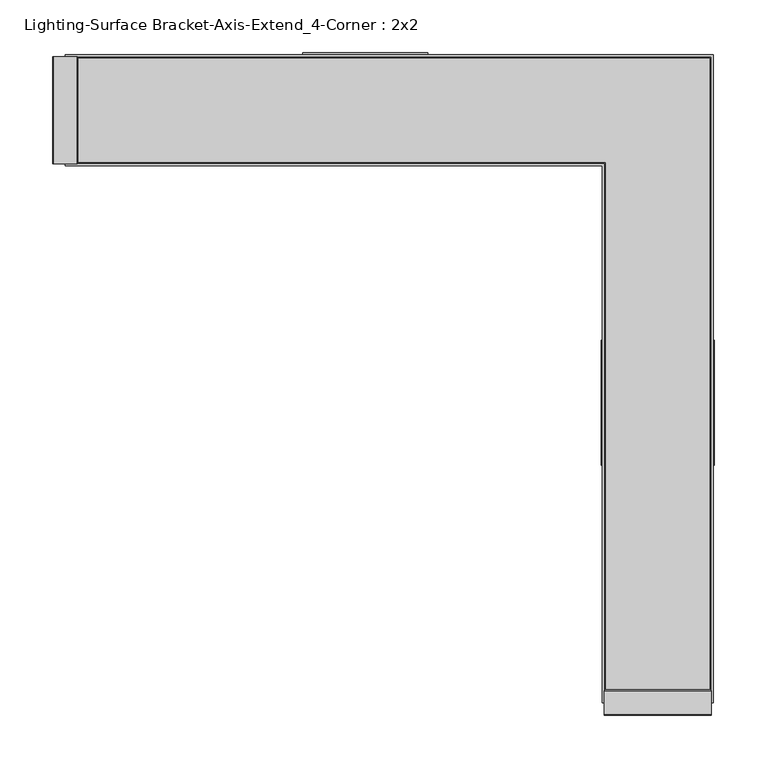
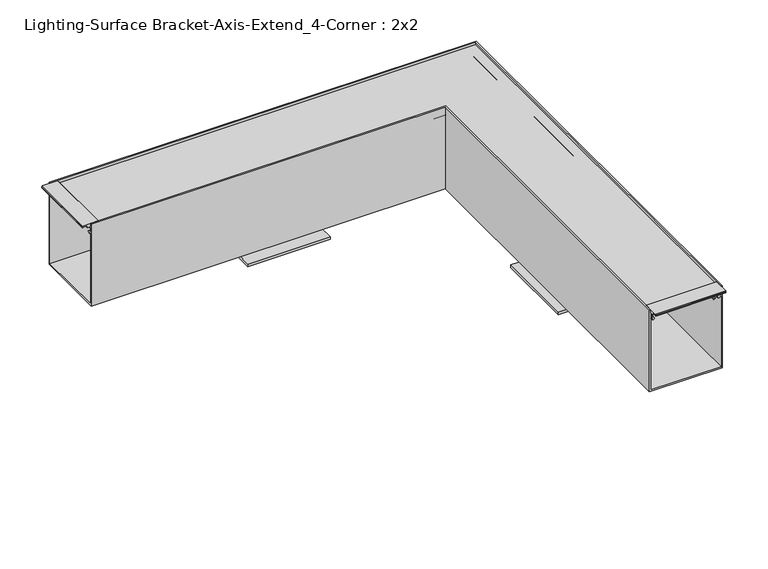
"""IFC4 building model written with IfcOpenShell, lengths in millimetres: light fixture geometry, Lighting-Surface Bracket-Axis-Extend_4-Corner : 2x2."""

from ifc_helpers import new_model, si_unit, frame, origin, place, context, project, spatial, polyline, circle_curve, ellipse_curve, outline, extrude, source, transform, mapped, element, save
from ifc_brep_helpers import plane_surface, cylinder_surface, revolved_surface, advanced_brep


def lighting_surface_bracket_axis_extend_4_corner_2x2_ce4d7e07(model_context):
    return source(origin(), model_context, "Body", "SolidModel", [
        extrude(outline(polyline([(19.05, -28.4099), (3.9878, -28.4099), (3.9878, -53.8099335), (0.0, -53.8099335), (0.0, 53.8099335), (3.9878, 53.8099335), (3.9878, 28.4099), (19.05, 28.4099), (19.05, -28.4099)])), frame((0.0, -337.757135, 0.0), z_axis=(0.0, 1.0, 0.0), x_axis=(0.0, 0.0, 1.0)), (0.0, 0.0, 1.0), 118.69928),
        extrude(outline(polyline([(-27.3849765, 19.05), (29.4348235, 19.05), (29.4348235, 3.9878), (54.834857, 3.9878), (54.834857, 0.0), (-52.78501, 0.0), (-52.78501, 3.9878), (-27.3849765, 3.9878), (-27.3849765, 19.05)])), frame((-337.757135, 0.0, 0.0), z_axis=(1.0, 0.0, 0.0), x_axis=(0.0, 1.0, 0.0)), (0.0, 0.0, 1.0), 118.69928),
        extrude(outline(polyline([(-551.65879, 142.7257861), (-551.65879, 141.25575), (-552.45254, 141.25575), (-552.45254, 142.0495), (-558.92319, 142.0495), (-558.92319, 139.2432981), (-568.60059, 139.2432981), (-568.60059, 142.0495), (-575.07124, 142.0495), (-575.07124, 141.25575), (-575.86499, 141.25575), (-575.86499, 142.7257861), (-574.9404463, 143.8275), (-552.5833337, 143.8275), (-551.65879, 142.7257861)])), frame((-50.75301, 0.0, 0.0), z_axis=(1.0, 0.0, 0.0), x_axis=(0.0, 1.0, 0.0)), (0.0, 0.0, 1.0), 101.50602),
        extrude(outline(polyline([(142.7257861, -551.65879), (143.8275, -552.5833337), (143.8275, -574.9404463), (142.7257861, -575.86499), (141.25575, -575.86499), (141.25575, -575.07124), (142.0495, -575.07124), (142.0495, -568.60059), (139.2432981, -568.60059), (139.2432981, -558.92319), (142.0495, -558.92319), (142.0495, -552.45254), (141.25575, -552.45254), (141.25575, -551.65879), (142.7257861, -551.65879)])), frame((0.0, -50.75301, 0.0), z_axis=(0.0, 1.0, 0.0), x_axis=(0.0, 0.0, 1.0)), (0.0, 0.0, 1.0), 101.50602),
        advanced_brep(
        [(-556.81499, -44.9537362, 138.9379991), (-556.81499, -45.2924281, 132.4753737), (-556.81499, -46.1628914, 125.8694903), (-556.81499, -45.3476056, 124.3717575), (-556.81499, -43.9929166, 123.1723555), (-556.81499, -44.973818, 121.8443369), (-556.81499, -46.5470052, 123.2371908), (-556.81499, -47.8918907, 127.06776), (-556.81499, -46.2564041, 131.1069658), (-556.81499, -46.9204959, 132.9561789), (-556.81499, -46.607002, 138.9379991), (-556.81499, -49.61001, 138.9379991), (-556.81499, -49.61001, 140.843), (-556.81499, 49.61001, 140.843), (-556.81499, 49.61001, 138.9379991), (-556.81499, 46.607002, 138.9379991), (-556.81499, 46.9204959, 132.9561789), (-556.81499, 46.2564041, 131.1069658), (-556.81499, 47.8918907, 127.06776), (-556.81499, 46.5470052, 123.2371908), (-556.81499, 44.973818, 121.8443369), (-556.81499, 43.9929166, 123.1723555), (-556.81499, 45.3476056, 124.3717575), (-556.81499, 46.1628914, 125.8694903), (-556.81499, 45.2924281, 132.4753737), (-556.81499, 44.9537362, 138.9379991), (-44.9537362, -556.81499, 138.9379991), (44.9537362, -556.81499, 138.9379991), (45.2924281, -556.81499, 132.4753737), (46.1628914, -556.81499, 125.8694903), (45.3476056, -556.81499, 124.3717575), (43.9929166, -556.81499, 123.1723555), (44.973818, -556.81499, 121.8443369), (46.5470052, -556.81499, 123.2371908), (47.8918907, -556.81499, 127.06776), (46.2564041, -556.81499, 131.1069658), (46.9204959, -556.81499, 132.9561789), (46.607002, -556.81499, 138.9379991), (49.61001, -556.81499, 138.9379991), (49.61001, -556.81499, 140.843), (-49.61001, -556.81499, 140.843), (-49.61001, -556.81499, 138.9379991), (-46.607002, -556.81499, 138.9379991), (-46.9204959, -556.81499, 132.9561789), (-46.2564041, -556.81499, 131.1069658), (-47.8918907, -556.81499, 127.06776), (-46.5470052, -556.81499, 123.2371908), (-44.973818, -556.81499, 121.8443369), (-43.9929166, -556.81499, 123.1723555), (-45.3476056, -556.81499, 124.3717575), (-46.1628914, -556.81499, 125.8694903), (-45.2924281, -556.81499, 132.4753737), (-44.9537362, -44.9537362, 138.9379991), (-45.2924281, -45.2924281, 132.4753737), (-46.1628914, -46.1628914, 125.8694903), (-45.3476056, -45.3476056, 124.3717575), (-43.9929166, -43.9929166, 123.1723555), (-44.973818, -44.973818, 121.8443369), (-46.5470052, -46.5470052, 123.2371908), (-47.8918907, -47.8918907, 127.06776), (-46.2564041, -46.2564041, 131.1069658), (-46.9204959, -46.9204959, 132.9561789), (-46.607002, -46.607002, 138.9379991), (-49.61001, -49.61001, 138.9379991), (-49.61001, -49.61001, 140.843), (49.61001, 49.61001, 140.843), (44.9537362, 44.9537362, 138.9379991), (49.61001, 49.61001, 138.9379991), (46.607002, 46.607002, 138.9379991), (46.9204959, 46.9204959, 132.9561789), (46.2564041, 46.2564041, 131.1069658), (47.8918907, 47.8918907, 127.06776), (46.5470052, 46.5470052, 123.2371908), (44.973818, 44.973818, 121.8443369), (43.9929166, 43.9929166, 123.1723555), (45.3476056, 45.3476056, 124.3717575), (46.1628914, 46.1628914, 125.8694903), (45.2924281, 45.2924281, 132.4753737)],
        [
            (0, 1),
            (1, 2, circle_curve(frame((-556.81499, -48.03521, 129.4765), z_axis=(-1.0, 0.0, 0.0), x_axis=(0.0, 0.6748971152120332, 0.7379118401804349)), 4.064)),
            (2, 3, circle_curve(frame((-556.81499, -42.930354, 126.6583457), z_axis=(1.0, 0.0, 0.0), x_axis=(0.0, -0.9714904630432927, -0.23707863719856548)), 3.3274001)),
            (3, 4, circle_curve(frame((-556.81499, -37.9113277, 131.4060708), z_axis=(1.0, 0.0, 0.0), x_axis=(0.0, -0.7264901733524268, -0.68717685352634)), 10.2362001)),
            (4, 5, circle_curve(frame((-556.81499, -44.4833673, 122.5083462), z_axis=(-1.0, 0.0, 0.0), x_axis=(0.0, 0.5941256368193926, 0.8043722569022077)), 0.8255)),
            (5, 6, circle_curve(frame((-556.81499, -37.9113269, 131.4060717), z_axis=(-1.0, 0.0, 0.0), x_axis=(0.0, -0.594125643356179, -0.8043722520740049)), 11.8872013)),
            (6, 7, circle_curve(frame((-556.81499, -42.930354, 126.6583457), z_axis=(-1.0, 0.0, 0.0), x_axis=(0.0, -0.7264685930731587, -0.6871996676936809)), 4.9784001)),
            (7, 8, circle_curve(frame((-556.81499, -48.03521, 129.4765), z_axis=(1.0, 0.0, 0.0), x_axis=(0.0, 0.05939464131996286, -0.9982345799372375)), 2.413)),
            (8, 9, circle_curve(frame((-556.81499, -44.3839769, 132.8232456), z_axis=(-1.0, 0.0, 0.0), x_axis=(0.0, -0.7371760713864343, -0.675700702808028)), 2.54)),
            (9, 10),
            (10, 11),
            (11, 12),
            (12, 13),
            (13, 14),
            (14, 15),
            (15, 16),
            (16, 17, circle_curve(frame((-556.81499, 44.3839769, 132.8232456), z_axis=(-1.0, 0.0, 0.0), x_axis=(0.0, 0.7371760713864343, -0.675700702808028)), 2.54)),
            (17, 18, circle_curve(frame((-556.81499, 48.03521, 129.4765), z_axis=(1.0, 0.0, 0.0), x_axis=(0.0, -0.05939464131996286, -0.9982345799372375)), 2.413)),
            (18, 19, circle_curve(frame((-556.81499, 42.930354, 126.6583457), z_axis=(-1.0, 0.0, 0.0), x_axis=(0.0, 0.7264685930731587, -0.6871996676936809)), 4.9784001)),
            (19, 20, circle_curve(frame((-556.81499, 37.9113269, 131.4060717), z_axis=(-1.0, 0.0, 0.0), x_axis=(0.0, 0.594125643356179, -0.8043722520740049)), 11.8872013)),
            (20, 21, circle_curve(frame((-556.81499, 44.4833673, 122.5083462), z_axis=(-1.0, 0.0, 0.0), x_axis=(0.0, -0.5941256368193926, 0.8043722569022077)), 0.8255)),
            (21, 22, circle_curve(frame((-556.81499, 37.9113277, 131.4060708), z_axis=(1.0, 0.0, 0.0), x_axis=(0.0, 0.7264901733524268, -0.68717685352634)), 10.2362001)),
            (22, 23, circle_curve(frame((-556.81499, 42.930354, 126.6583457), z_axis=(1.0, 0.0, 0.0), x_axis=(0.0, 0.9714904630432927, -0.23707863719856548)), 3.3274001)),
            (23, 24, circle_curve(frame((-556.81499, 48.03521, 129.4765), z_axis=(-1.0, 0.0, 0.0), x_axis=(0.0, -0.6748971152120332, 0.7379118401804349)), 4.064)),
            (24, 25),
            (25, 0),
            (26, 27),
            (27, 28),
            (28, 29, circle_curve(frame((48.03521, -556.81499, 129.4765), z_axis=(0.0, -1.0, 0.0), x_axis=(-0.6748971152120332, 0.0, 0.7379118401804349)), 4.064)),
            (29, 30, circle_curve(frame((42.930354, -556.81499, 126.6583457), z_axis=(0.0, 1.0, 0.0), x_axis=(0.9714904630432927, 0.0, -0.23707863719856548)), 3.3274001)),
            (30, 31, circle_curve(frame((37.9113277, -556.81499, 131.4060708), z_axis=(0.0, 1.0, 0.0), x_axis=(0.7264901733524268, 0.0, -0.68717685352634)), 10.2362001)),
            (31, 32, circle_curve(frame((44.4833673, -556.81499, 122.5083462), z_axis=(0.0, -1.0, 0.0), x_axis=(-0.5941256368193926, 0.0, 0.8043722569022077)), 0.8255)),
            (32, 33, circle_curve(frame((37.9113269, -556.81499, 131.4060717), z_axis=(0.0, -1.0, 0.0), x_axis=(0.594125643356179, 0.0, -0.8043722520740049)), 11.8872013)),
            (33, 34, circle_curve(frame((42.930354, -556.81499, 126.6583457), z_axis=(0.0, -1.0, 0.0), x_axis=(0.7264685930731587, 0.0, -0.6871996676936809)), 4.9784001)),
            (34, 35, circle_curve(frame((48.03521, -556.81499, 129.4765), z_axis=(0.0, 1.0, 0.0), x_axis=(-0.05939464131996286, 0.0, -0.9982345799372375)), 2.413)),
            (35, 36, circle_curve(frame((44.3839769, -556.81499, 132.8232456), z_axis=(0.0, -1.0, 0.0), x_axis=(0.7371760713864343, 0.0, -0.675700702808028)), 2.54)),
            (36, 37),
            (37, 38),
            (38, 39),
            (39, 40),
            (40, 41),
            (41, 42),
            (42, 43),
            (43, 44, circle_curve(frame((-44.3839769, -556.81499, 132.8232456), z_axis=(0.0, -1.0, 0.0), x_axis=(-0.7371760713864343, 0.0, -0.675700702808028)), 2.54)),
            (44, 45, circle_curve(frame((-48.03521, -556.81499, 129.4765), z_axis=(0.0, 1.0, 0.0), x_axis=(0.05939464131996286, 0.0, -0.9982345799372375)), 2.413)),
            (45, 46, circle_curve(frame((-42.930354, -556.81499, 126.6583457), z_axis=(0.0, -1.0, 0.0), x_axis=(-0.7264685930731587, 0.0, -0.6871996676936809)), 4.9784001)),
            (46, 47, circle_curve(frame((-37.9113269, -556.81499, 131.4060717), z_axis=(0.0, -1.0, 0.0), x_axis=(-0.594125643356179, 0.0, -0.8043722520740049)), 11.8872013)),
            (47, 48, circle_curve(frame((-44.4833673, -556.81499, 122.5083462), z_axis=(0.0, -1.0, 0.0), x_axis=(0.5941256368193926, 0.0, 0.8043722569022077)), 0.8255)),
            (48, 49, circle_curve(frame((-37.9113277, -556.81499, 131.4060708), z_axis=(0.0, 1.0, 0.0), x_axis=(-0.7264901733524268, 0.0, -0.68717685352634)), 10.2362001)),
            (49, 50, circle_curve(frame((-42.930354, -556.81499, 126.6583457), z_axis=(0.0, 1.0, 0.0), x_axis=(-0.9714904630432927, 0.0, -0.23707863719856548)), 3.3274001)),
            (50, 51, circle_curve(frame((-48.03521, -556.81499, 129.4765), z_axis=(0.0, -1.0, 0.0), x_axis=(0.6748971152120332, 0.0, 0.7379118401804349)), 4.064)),
            (51, 26),
            (0, 52),
            (52, 53),
            (53, 1),
            (53, 54, ellipse_curve(frame((-48.03521, -48.03521, 129.4765), z_axis=(-0.7071067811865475, 0.7071067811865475, 0.0), x_axis=(-0.7071067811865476, -0.7071067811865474, 0.0)), 5.7473639, 4.064)),
            (54, 2),
            (54, 55, ellipse_curve(frame((-42.930354, -42.930354, 126.6583457), z_axis=(0.7071067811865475, -0.7071067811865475, 0.0), x_axis=(0.7071067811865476, 0.7071067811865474, 0.0)), 4.7056543, 3.3274001)),
            (55, 3),
            (55, 56, ellipse_curve(frame((-37.9113277, -37.9113277, 131.4060708), z_axis=(0.7071067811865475, -0.7071067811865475, 0.0), x_axis=(0.7071067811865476, 0.7071067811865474, 0.0)), 14.476173, 10.2362001)),
            (56, 4),
            (56, 57, ellipse_curve(frame((-44.4833673, -44.4833673, 122.5083462), z_axis=(-0.7071067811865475, 0.7071067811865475, 0.0), x_axis=(-0.7071067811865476, -0.7071067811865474, 0.0)), 1.1674333, 0.8255)),
            (57, 5),
            (57, 58, ellipse_curve(frame((-37.9113269, -37.9113269, 131.4060717), z_axis=(-0.7071067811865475, 0.7071067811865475, 0.0), x_axis=(-0.7071067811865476, -0.7071067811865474, 0.0)), 16.8110412, 11.8872013)),
            (58, 6),
            (58, 59, ellipse_curve(frame((-42.930354, -42.930354, 126.6583457), z_axis=(-0.7071067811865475, 0.7071067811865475, 0.0), x_axis=(-0.7071067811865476, -0.7071067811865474, 0.0)), 7.0405209, 4.9784001)),
            (59, 7),
            (59, 60, ellipse_curve(frame((-48.03521, -48.03521, 129.4765), z_axis=(0.7071067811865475, -0.7071067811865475, 0.0), x_axis=(0.7071067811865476, 0.7071067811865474, 0.0)), 3.4124973, 2.413)),
            (60, 8),
            (60, 61, ellipse_curve(frame((-44.3839769, -44.3839769, 132.8232456), z_axis=(-0.7071067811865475, 0.7071067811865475, 0.0), x_axis=(-0.7071067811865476, -0.7071067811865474, 0.0)), 3.5921024, 2.54)),
            (61, 9),
            (61, 62),
            (62, 10),
            (62, 42),
            (41, 63),
            (63, 11),
            (63, 64),
            (64, 12),
            (64, 40),
            (39, 65),
            (65, 13),
            (25, 66),
            (66, 27),
            (26, 52),
            (65, 67),
            (67, 14),
            (67, 38),
            (37, 68),
            (68, 15),
            (68, 69),
            (69, 16),
            (69, 70, ellipse_curve(frame((44.3839769, 44.3839769, 132.8232456), z_axis=(-0.7071067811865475, 0.7071067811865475, 0.0), x_axis=(-0.7071067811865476, -0.7071067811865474, 0.0)), 3.5921024, 2.54)),
            (70, 17),
            (70, 71, ellipse_curve(frame((48.03521, 48.03521, 129.4765), z_axis=(0.7071067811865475, -0.7071067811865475, 0.0), x_axis=(0.7071067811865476, 0.7071067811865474, 0.0)), 3.4124973, 2.413)),
            (71, 18),
            (71, 72, ellipse_curve(frame((42.930354, 42.930354, 126.6583457), z_axis=(-0.7071067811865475, 0.7071067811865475, 0.0), x_axis=(-0.7071067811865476, -0.7071067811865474, 0.0)), 7.0405209, 4.9784001)),
            (72, 19),
            (72, 73, ellipse_curve(frame((37.9113269, 37.9113269, 131.4060717), z_axis=(-0.7071067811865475, 0.7071067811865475, 0.0), x_axis=(-0.7071067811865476, -0.7071067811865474, 0.0)), 16.8110412, 11.8872013)),
            (73, 20),
            (73, 74, ellipse_curve(frame((44.4833673, 44.4833673, 122.5083462), z_axis=(-0.7071067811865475, 0.7071067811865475, 0.0), x_axis=(-0.7071067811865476, -0.7071067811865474, 0.0)), 1.1674333, 0.8255)),
            (74, 21),
            (74, 75, ellipse_curve(frame((37.9113277, 37.9113277, 131.4060708), z_axis=(0.7071067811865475, -0.7071067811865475, 0.0), x_axis=(0.7071067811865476, 0.7071067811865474, 0.0)), 14.476173, 10.2362001)),
            (75, 22),
            (75, 76, ellipse_curve(frame((42.930354, 42.930354, 126.6583457), z_axis=(0.7071067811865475, -0.7071067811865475, 0.0), x_axis=(0.7071067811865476, 0.7071067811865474, 0.0)), 4.7056543, 3.3274001)),
            (76, 23),
            (76, 77, ellipse_curve(frame((48.03521, 48.03521, 129.4765), z_axis=(-0.7071067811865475, 0.7071067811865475, 0.0), x_axis=(-0.7071067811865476, -0.7071067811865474, 0.0)), 5.7473639, 4.064)),
            (77, 24),
            (77, 66),
            (51, 53),
            (50, 54),
            (49, 55),
            (48, 56),
            (47, 57),
            (46, 58),
            (45, 59),
            (44, 60),
            (43, 61),
            (36, 69),
            (35, 70),
            (34, 71),
            (33, 72),
            (32, 73),
            (31, 74),
            (30, 75),
            (29, 76),
            (28, 77),
        ],
        [
            plane_surface(frame((-556.81499, 0.0, 0.0), z_axis=(-1.0, 0.0, 0.0), x_axis=(0.0, 0.0, 1.0))),
            plane_surface(frame((0.0, -556.81499, 0.0), z_axis=(0.0, -1.0, 0.0), x_axis=(0.0, 0.0, 1.0))),
            plane_surface(frame((-556.81499, -44.9537362, 138.9379991), z_axis=(0.0, 0.9986295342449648, -0.05233596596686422), x_axis=(1.0, 0.0, 0.0))),
            cylinder_surface(frame((-556.81499, -48.03521, 129.4765), z_axis=(-1.0, 0.0, 0.0), x_axis=(0.0, 0.6748971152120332, 0.7379118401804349)), 4.064),
            revolved_surface(polyline([(-39.6029539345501, -46.1628914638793, 125.86949021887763), (-556.81499, -46.1628914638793, 125.86949021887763)]), (-556.81499, -42.930354, 126.6583457), (1.0000000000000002, 0.0, 0.0)),
            revolved_surface(polyline([(-27.67512760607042, -45.34782648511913, 124.371991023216), (-556.81499, -45.34782648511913, 124.371991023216)]), (-556.81499, -37.9113277, 131.4060708), (1.0, 0.0, 0.0)),
            cylinder_surface(frame((-556.81499, -44.4833673, 122.5083462), z_axis=(-1.0, 0.0, 0.0), x_axis=(0.0, 0.5941256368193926, 0.8043722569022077)), 0.8255),
            cylinder_surface(frame((-556.81499, -37.9113269, 131.4060717), z_axis=(-1.0, 0.0, 0.0), x_axis=(0.0, -0.594125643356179, -0.8043722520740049)), 11.8872013),
            cylinder_surface(frame((-556.81499, -42.930354, 126.6583457), z_axis=(-1.0, 0.0, 0.0), x_axis=(0.0, -0.7264685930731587, -0.6871996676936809)), 4.9784001),
            revolved_surface(polyline([(-45.62221001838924, -47.89189073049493, 127.06775995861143), (-556.81499, -47.89189073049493, 127.06775995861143)]), (-556.81499, -48.03521, 129.4765), (1.0, 0.0, 0.0)),
            cylinder_surface(frame((-556.81499, -44.3839769, 132.8232456), z_axis=(-1.0, 0.0, 0.0), x_axis=(0.0, -0.7371760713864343, -0.675700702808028)), 2.54),
            plane_surface(frame((-556.81499, -46.9204959, 132.9561789), z_axis=(0.0, -0.9986295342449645, 0.05233596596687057), x_axis=(1.0, 0.0, 0.0))),
            plane_surface(frame((-556.81499, -46.607002, 138.9379991), z_axis=(0.0, 0.0, -1.0), x_axis=(1.0, 0.0, 0.0))),
            plane_surface(frame((-556.81499, -49.61001, 138.9379991), z_axis=(0.0, -1.0, 0.0), x_axis=(1.0, 0.0, 0.0))),
            plane_surface(frame((-556.81499, -49.61001, 140.843), z_axis=(0.0, 0.0, 1.0), x_axis=(1.0, 0.0, 0.0))),
            plane_surface(frame((-556.81499, 44.9537362, 138.9379991), z_axis=(0.0, 0.0, -1.0), x_axis=(1.0, 0.0, 0.0))),
            plane_surface(frame((-556.81499, 49.61001, 140.843), z_axis=(0.0, 1.0, 0.0), x_axis=(1.0, 0.0, 0.0))),
            plane_surface(frame((-556.81499, 49.61001, 138.9379991), z_axis=(0.0, 0.0, -1.0), x_axis=(1.0, 0.0, 0.0))),
            plane_surface(frame((-556.81499, 46.607002, 138.9379991), z_axis=(0.0, 0.9986295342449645, 0.05233596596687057), x_axis=(1.0, 0.0, 0.0))),
            cylinder_surface(frame((-556.81499, 44.3839769, 132.8232456), z_axis=(-1.0, 0.0, 0.0), x_axis=(0.0, 0.7371760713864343, -0.675700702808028)), 2.54),
            revolved_surface(polyline([(50.44820998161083, 47.89189073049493, 127.06775995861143), (-556.81499, 47.89189073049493, 127.06775995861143)]), (-556.81499, 48.03521, 129.4765), (1.0, 0.0, 0.0)),
            cylinder_surface(frame((-556.81499, 42.930354, 126.6583457), z_axis=(-1.0, 0.0, 0.0), x_axis=(0.0, 0.7264685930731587, -0.6871996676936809)), 4.9784001),
            cylinder_surface(frame((-556.81499, 37.9113269, 131.4060717), z_axis=(-1.0, 0.0, 0.0), x_axis=(0.0, 0.594125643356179, -0.8043722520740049)), 11.8872013),
            cylinder_surface(frame((-556.81499, 44.4833673, 122.5083462), z_axis=(-1.0, 0.0, 0.0), x_axis=(0.0, -0.5941256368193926, 0.8043722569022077)), 0.8255),
            revolved_surface(polyline([(48.14752779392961, 45.34782648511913, 124.371991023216), (-556.81499, 45.34782648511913, 124.371991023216)]), (-556.81499, 37.9113277, 131.4060708), (1.0, 0.0, 0.0)),
            revolved_surface(polyline([(46.25775406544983, 46.1628914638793, 125.86949021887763), (-556.81499, 46.1628914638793, 125.86949021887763)]), (-556.81499, 42.930354, 126.6583457), (1.0000000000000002, 0.0, 0.0)),
            cylinder_surface(frame((-556.81499, 48.03521, 129.4765), z_axis=(-1.0, 0.0, 0.0), x_axis=(0.0, -0.6748971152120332, 0.7379118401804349)), 4.064),
            plane_surface(frame((-556.81499, 45.2924281, 132.4753737), z_axis=(0.0, -0.9986295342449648, -0.05233596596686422), x_axis=(1.0, 0.0, 0.0))),
            plane_surface(frame((-44.9537362, -44.9537362, 138.9379991), z_axis=(0.9986295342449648, 0.0, -0.05233596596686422), x_axis=(0.0, -1.0, 0.0))),
            cylinder_surface(frame((-48.03521, 0.0, 129.4765), z_axis=(0.0, 1.0, 0.0), x_axis=(0.6748971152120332, 0.0, 0.7379118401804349)), 4.064),
            revolved_surface(polyline([(-46.1628914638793, -556.8149900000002, 125.86949021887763), (-46.1628914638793, -39.60295393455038, 125.86949021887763)]), (-42.930354, 0.0, 126.6583457), (0.0, -1.0000000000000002, 0.0)),
            revolved_surface(polyline([(-45.34782648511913, -556.81499, 124.371991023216), (-45.34782648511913, -27.675127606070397, 124.371991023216)]), (-37.9113277, 0.0, 131.4060708), (0.0, -1.0, 0.0)),
            cylinder_surface(frame((-44.4833673, 0.0, 122.5083462), z_axis=(0.0, 1.0, 0.0), x_axis=(0.5941256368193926, 0.0, 0.8043722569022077)), 0.8255),
            cylinder_surface(frame((-37.9113269, 0.0, 131.4060717), z_axis=(0.0, 1.0, 0.0), x_axis=(-0.594125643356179, 0.0, -0.8043722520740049)), 11.8872013),
            cylinder_surface(frame((-42.930354, 0.0, 126.6583457), z_axis=(0.0, 1.0, 0.0), x_axis=(-0.7264685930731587, 0.0, -0.6871996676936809)), 4.9784001),
            revolved_surface(polyline([(-47.89189073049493, -556.81499, 127.06775995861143), (-47.89189073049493, -45.62221001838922, 127.06775995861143)]), (-48.03521, 0.0, 129.4765), (0.0, -1.0, 0.0)),
            cylinder_surface(frame((-44.3839769, 0.0, 132.8232456), z_axis=(0.0, 1.0, 0.0), x_axis=(-0.7371760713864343, 0.0, -0.675700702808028)), 2.54),
            plane_surface(frame((-46.9204959, -46.9204959, 132.9561789), z_axis=(-0.9986295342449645, 0.0, 0.05233596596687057), x_axis=(0.0, -1.0, 0.0))),
            plane_surface(frame((-49.61001, -49.61001, 138.9379991), z_axis=(-1.0, 0.0, 0.0), x_axis=(0.0, -1.0, 0.0))),
            plane_surface(frame((49.61001, 49.61001, 140.843), z_axis=(1.0, 0.0, 0.0), x_axis=(0.0, -1.0, 0.0))),
            plane_surface(frame((46.607002, 46.607002, 138.9379991), z_axis=(0.9986295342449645, 0.0, 0.05233596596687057), x_axis=(0.0, -1.0, 0.0))),
            cylinder_surface(frame((44.3839769, 0.0, 132.8232456), z_axis=(0.0, 1.0, 0.0), x_axis=(0.7371760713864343, 0.0, -0.675700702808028)), 2.54),
            revolved_surface(polyline([(47.89189073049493, -556.81499, 127.06775995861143), (47.89189073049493, 50.44820998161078, 127.06775995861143)]), (48.03521, 0.0, 129.4765), (0.0, -1.0, 0.0)),
            cylinder_surface(frame((42.930354, 0.0, 126.6583457), z_axis=(0.0, 1.0, 0.0), x_axis=(0.7264685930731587, 0.0, -0.6871996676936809)), 4.9784001),
            cylinder_surface(frame((37.9113269, 0.0, 131.4060717), z_axis=(0.0, 1.0, 0.0), x_axis=(0.594125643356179, 0.0, -0.8043722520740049)), 11.8872013),
            cylinder_surface(frame((44.4833673, 0.0, 122.5083462), z_axis=(0.0, 1.0, 0.0), x_axis=(-0.5941256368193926, 0.0, 0.8043722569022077)), 0.8255),
            revolved_surface(polyline([(45.34782648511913, -556.81499, 124.371991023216), (45.34782648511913, 48.147527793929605, 124.371991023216)]), (37.9113277, 0.0, 131.4060708), (0.0, -1.0, 0.0)),
            revolved_surface(polyline([(46.1628914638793, -556.8149900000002, 125.86949021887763), (46.1628914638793, 46.25775406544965, 125.86949021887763)]), (42.930354, 0.0, 126.6583457), (0.0, -1.0000000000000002, 0.0)),
            cylinder_surface(frame((48.03521, 0.0, 129.4765), z_axis=(0.0, 1.0, 0.0), x_axis=(-0.6748971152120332, 0.0, 0.7379118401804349)), 4.064),
            plane_surface(frame((45.2924281, 45.2924281, 132.4753737), z_axis=(-0.9986295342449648, 0.0, -0.05233596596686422), x_axis=(0.0, -1.0, 0.0))),
        ],
        [
            (0, [[1, 2, 3, 4, 5, 6, 7, 8, 9, 10, 11, 12, 13, 14, 15, 16, 17, 18, 19, 20, 21, 22, 23, 24, 25, 26]]),
            (1, [[27, 28, 29, 30, 31, 32, 33, 34, 35, 36, 37, 38, 39, 40, 41, 42, 43, 44, 45, 46, 47, 48, 49, 50, 51, 52]]),
            (2, [[-1, 53, 54, 55]]),
            (3, [[-2, -55, 56, 57]]),
            (4, [[-3, -57, 58, 59]]),
            (5, [[-4, -59, 60, 61]]),
            (6, [[-5, -61, 62, 63]]),
            (7, [[-6, -63, 64, 65]]),
            (8, [[-7, -65, 66, 67]]),
            (9, [[-8, -67, 68, 69]]),
            (10, [[-9, -69, 70, 71]]),
            (11, [[-10, -71, 72, 73]]),
            (12, [[-11, -73, 74, -42, 75, 76]]),
            (13, [[-12, -76, 77, 78]]),
            (14, [[-13, -78, 79, -40, 80, 81]]),
            (15, [[-26, 82, 83, -27, 84, -53]]),
            (16, [[-14, -81, 85, 86]]),
            (17, [[-15, -86, 87, -38, 88, 89]]),
            (18, [[-16, -89, 90, 91]]),
            (19, [[-17, -91, 92, 93]]),
            (20, [[-18, -93, 94, 95]]),
            (21, [[-19, -95, 96, 97]]),
            (22, [[-20, -97, 98, 99]]),
            (23, [[-21, -99, 100, 101]]),
            (24, [[-22, -101, 102, 103]]),
            (25, [[-23, -103, 104, 105]]),
            (26, [[-24, -105, 106, 107]]),
            (27, [[-25, -107, 108, -82]]),
            (28, [[-54, -84, -52, 109]]),
            (29, [[-56, -109, -51, 110]]),
            (30, [[-58, -110, -50, 111]]),
            (31, [[-60, -111, -49, 112]]),
            (32, [[-62, -112, -48, 113]]),
            (33, [[-64, -113, -47, 114]]),
            (34, [[-66, -114, -46, 115]]),
            (35, [[-68, -115, -45, 116]]),
            (36, [[-70, -116, -44, 117]]),
            (37, [[-72, -117, -43, -74]]),
            (38, [[-77, -75, -41, -79]]),
            (39, [[-85, -80, -39, -87]]),
            (40, [[-90, -88, -37, 118]]),
            (41, [[-92, -118, -36, 119]]),
            (42, [[-94, -119, -35, 120]]),
            (43, [[-96, -120, -34, 121]]),
            (44, [[-98, -121, -33, 122]]),
            (45, [[-100, -122, -32, 123]]),
            (46, [[-102, -123, -31, 124]]),
            (47, [[-104, -124, -30, 125]]),
            (48, [[-106, -125, -29, 126]]),
            (49, [[-108, -126, -28, -83]]),
        ],
    ),
        advanced_brep(
        [(-563.76189, -50.75301, 128.9177), (-563.76189, -50.75301, 21.082), (-563.76189, 50.75301, 21.082), (-563.76189, 50.75301, 128.9177), (-563.76189, 48.9135897, 128.9177), (-563.76189, 46.6540646, 127.6131626), (-563.76189, 45.4706616, 129.8683682), (-563.76189, 48.84801, 132.7023), (-563.76189, 48.84801, 130.9497), (-563.76189, 50.75301, 130.9497), (-563.76189, 50.75301, 137.4775), (-563.76189, 48.84801, 137.4775), (-563.76189, 48.84801, 135.9535), (-563.76189, 47.19701, 136.0400252), (-563.76189, 47.19701, 138.7475), (-563.76189, 50.75301, 138.7475), (-563.76189, 50.75301, 143.8275), (-563.76189, 52.78501, 143.8275), (-563.76189, 52.78501, 19.05), (-563.76189, -52.78501, 19.05), (-563.76189, -52.78501, 143.8275), (-563.76189, -50.75301, 143.8275), (-563.76189, -50.75301, 138.7475), (-563.76189, -47.19701, 138.7475), (-563.76189, -47.19701, 136.0400252), (-563.76189, -48.84801, 135.9535), (-563.76189, -48.84801, 137.4775), (-563.76189, -50.75301, 137.4775), (-563.76189, -50.75301, 130.9497), (-563.76189, -48.84801, 130.9497), (-563.76189, -48.84801, 132.7023), (-563.76189, -45.4706616, 129.8683682), (-563.76189, -46.6540646, 127.6131626), (-563.76189, -48.9135897, 128.9177), (-50.75301, -563.76189, 128.9177), (-48.9135897, -563.76189, 128.9177), (-46.6540646, -563.76189, 127.6131626), (-45.4706616, -563.76189, 129.8683682), (-48.84801, -563.76189, 132.7023), (-48.84801, -563.76189, 130.9497), (-50.75301, -563.76189, 130.9497), (-50.75301, -563.76189, 137.4775), (-48.84801, -563.76189, 137.4775), (-48.84801, -563.76189, 135.9535), (-47.19701, -563.76189, 136.0400252), (-47.19701, -563.76189, 138.7475), (-50.75301, -563.76189, 138.7475), (-50.75301, -563.76189, 143.8275), (-52.78501, -563.76189, 143.8275), (-52.78501, -563.76189, 19.05), (52.78501, -563.76189, 19.05), (52.78501, -563.76189, 143.8275), (50.75301, -563.76189, 143.8275), (50.75301, -563.76189, 138.7475), (47.19701, -563.76189, 138.7475), (47.19701, -563.76189, 136.0400252), (48.84801, -563.76189, 135.9535), (48.84801, -563.76189, 137.4775), (50.75301, -563.76189, 137.4775), (50.75301, -563.76189, 130.9497), (48.84801, -563.76189, 130.9497), (48.84801, -563.76189, 132.7023), (45.4706616, -563.76189, 129.8683682), (46.6540646, -563.76189, 127.6131626), (48.9135897, -563.76189, 128.9177), (50.75301, -563.76189, 128.9177), (50.75301, -563.76189, 21.082), (-50.75301, -563.76189, 21.082), (-50.75301, -50.75301, 128.9177), (-50.75301, -50.75301, 21.082), (50.75301, 50.75301, 21.082), (52.78501, 52.78501, 19.05), (-52.78501, -52.78501, 19.05), (-52.78501, -52.78501, 143.8275), (-50.75301, -50.75301, 143.8275), (-50.75301, -50.75301, 138.7475), (-47.19701, -47.19701, 138.7475), (-47.19701, -47.19701, 136.0400252), (-48.84801, -48.84801, 135.9535), (-48.84801, -48.84801, 137.4775), (-50.75301, -50.75301, 137.4775), (-50.75301, -50.75301, 130.9497), (-48.84801, -48.84801, 130.9497), (-48.84801, -48.84801, 132.7023), (-45.4706616, -45.4706616, 129.8683682), (-46.6540646, -46.6540646, 127.6131626), (-48.9135897, -48.9135897, 128.9177), (50.75301, 50.75301, 128.9177), (48.9135897, 48.9135897, 128.9177), (46.6540646, 46.6540646, 127.6131626), (45.4706616, 45.4706616, 129.8683682), (48.84801, 48.84801, 132.7023), (48.84801, 48.84801, 130.9497), (50.75301, 50.75301, 130.9497), (50.75301, 50.75301, 137.4775), (48.84801, 48.84801, 137.4775), (48.84801, 48.84801, 135.9535), (47.19701, 47.19701, 136.0400252), (47.19701, 47.19701, 138.7475), (50.75301, 50.75301, 138.7475), (50.75301, 50.75301, 143.8275), (52.78501, 52.78501, 143.8275)],
        [
            (0, 1),
            (1, 2),
            (2, 3),
            (3, 4),
            (4, 5, circle_curve(frame((-563.76189, 47.4072397, 128.9177), z_axis=(-1.0, 0.0, 0.0), x_axis=(0.0, 1.0, 0.0)), 1.5063501)),
            (5, 6, circle_curve(frame((-563.76189, 47.8452221, 129.6763079), z_axis=(-1.0, 0.0, 0.0), x_axis=(0.0, -0.5000000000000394, -0.866025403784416)), 2.382315)),
            (6, 7),
            (7, 8),
            (8, 9),
            (9, 10),
            (10, 11),
            (11, 12),
            (12, 13),
            (13, 14),
            (14, 15),
            (15, 16),
            (16, 17),
            (17, 18),
            (18, 19),
            (19, 20),
            (20, 21),
            (21, 22),
            (22, 23),
            (23, 24),
            (24, 25),
            (25, 26),
            (26, 27),
            (27, 28),
            (28, 29),
            (29, 30),
            (30, 31),
            (31, 32, circle_curve(frame((-563.76189, -47.8452221, 129.6763079), z_axis=(-1.0, 0.0, 0.0), x_axis=(0.0, 0.5000000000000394, -0.866025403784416)), 2.382315)),
            (32, 33, circle_curve(frame((-563.76189, -47.4072397, 128.9177), z_axis=(-1.0, 0.0, 0.0), x_axis=(0.0, -1.0, 0.0)), 1.5063501)),
            (33, 0),
            (34, 35),
            (35, 36, circle_curve(frame((-47.4072397, -563.76189, 128.9177), z_axis=(0.0, -1.0, 0.0), x_axis=(-1.0, 0.0, 0.0)), 1.5063501)),
            (36, 37, circle_curve(frame((-47.8452221, -563.76189, 129.6763079), z_axis=(0.0, -1.0, 0.0), x_axis=(0.5000000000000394, 0.0, -0.866025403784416)), 2.382315)),
            (37, 38),
            (38, 39),
            (39, 40),
            (40, 41),
            (41, 42),
            (42, 43),
            (43, 44),
            (44, 45),
            (45, 46),
            (46, 47),
            (47, 48),
            (48, 49),
            (49, 50),
            (50, 51),
            (51, 52),
            (52, 53),
            (53, 54),
            (54, 55),
            (55, 56),
            (56, 57),
            (57, 58),
            (58, 59),
            (59, 60),
            (60, 61),
            (61, 62),
            (62, 63, circle_curve(frame((47.8452221, -563.76189, 129.6763079), z_axis=(0.0, -1.0, 0.0), x_axis=(-0.5000000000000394, 0.0, -0.866025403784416)), 2.382315)),
            (63, 64, circle_curve(frame((47.4072397, -563.76189, 128.9177), z_axis=(0.0, -1.0, 0.0), x_axis=(1.0, 0.0, 0.0)), 1.5063501)),
            (64, 65),
            (65, 66),
            (66, 67),
            (67, 34),
            (0, 68),
            (68, 69),
            (69, 1),
            (69, 67),
            (66, 70),
            (70, 2),
            (18, 71),
            (71, 50),
            (49, 72),
            (72, 19),
            (72, 73),
            (73, 20),
            (73, 48),
            (47, 74),
            (74, 21),
            (74, 75),
            (75, 22),
            (75, 46),
            (45, 76),
            (76, 23),
            (76, 77),
            (77, 24),
            (77, 78),
            (78, 25),
            (78, 79),
            (79, 26),
            (79, 42),
            (41, 80),
            (80, 27),
            (80, 81),
            (81, 28),
            (81, 40),
            (39, 82),
            (82, 29),
            (82, 83),
            (83, 30),
            (83, 84),
            (84, 31),
            (84, 85, ellipse_curve(frame((-47.8452221, -47.8452221, 129.6763079), z_axis=(-0.7071067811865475, 0.7071067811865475, 0.0), x_axis=(-0.7071067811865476, -0.7071067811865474, 0.0)), 3.3691022, 2.382315)),
            (85, 32),
            (85, 86, ellipse_curve(frame((-47.4072397, -47.4072397, 128.9177), z_axis=(-0.7071067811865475, 0.7071067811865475, 0.0), x_axis=(-0.7071067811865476, -0.7071067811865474, 0.0)), 2.1303007, 1.5063501)),
            (86, 33),
            (86, 35),
            (34, 68),
            (70, 87),
            (87, 3),
            (87, 65),
            (64, 88),
            (88, 4),
            (88, 89, ellipse_curve(frame((47.4072397, 47.4072397, 128.9177), z_axis=(-0.7071067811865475, 0.7071067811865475, 0.0), x_axis=(-0.7071067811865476, -0.7071067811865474, 0.0)), 2.1303007, 1.5063501)),
            (89, 5),
            (89, 90, ellipse_curve(frame((47.8452221, 47.8452221, 129.6763079), z_axis=(-0.7071067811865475, 0.7071067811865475, 0.0), x_axis=(-0.7071067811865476, -0.7071067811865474, 0.0)), 3.3691022, 2.382315)),
            (90, 6),
            (90, 91),
            (91, 7),
            (91, 92),
            (92, 8),
            (92, 60),
            (59, 93),
            (93, 9),
            (93, 94),
            (94, 10),
            (94, 58),
            (57, 95),
            (95, 11),
            (95, 96),
            (96, 12),
            (96, 97),
            (97, 13),
            (97, 98),
            (98, 14),
            (98, 54),
            (53, 99),
            (99, 15),
            (99, 100),
            (100, 16),
            (100, 52),
            (51, 101),
            (101, 17),
            (101, 71),
            (63, 89),
            (62, 90),
            (61, 91),
            (56, 96),
            (55, 97),
            (44, 77),
            (43, 78),
            (38, 83),
            (37, 84),
            (36, 85),
        ],
        [
            plane_surface(frame((-563.76189, 0.0, 0.0), z_axis=(-1.0, 0.0, 0.0), x_axis=(0.0, 0.0, 1.0))),
            plane_surface(frame((0.0, -563.76189, 0.0), z_axis=(0.0, -1.0, 0.0), x_axis=(0.0, 0.0, 1.0))),
            plane_surface(frame((-563.76189, -50.75301, 128.9177), z_axis=(0.0, 1.0, 0.0), x_axis=(1.0, 0.0, 0.0))),
            plane_surface(frame((-563.76189, -50.75301, 21.082), z_axis=(0.0, 0.0, 1.0), x_axis=(1.0, 0.0, 0.0))),
            plane_surface(frame((-563.76189, 52.78501, 19.05), z_axis=(0.0, 0.0, -1.0), x_axis=(1.0, 0.0, 0.0))),
            plane_surface(frame((-563.76189, -52.78501, 19.05), z_axis=(0.0, -1.0, 0.0), x_axis=(1.0, 0.0, 0.0))),
            plane_surface(frame((-563.76189, -52.78501, 143.8275), z_axis=(0.0, 0.0, 1.0), x_axis=(1.0, 0.0, 0.0))),
            plane_surface(frame((-563.76189, -50.75301, 143.8275), z_axis=(0.0, 1.0, 0.0), x_axis=(1.0, 0.0, 0.0))),
            plane_surface(frame((-563.76189, -50.75301, 138.7475), z_axis=(0.0, 0.0, 1.0), x_axis=(1.0, 0.0, 0.0))),
            plane_surface(frame((-563.76189, -47.19701, 138.7475), z_axis=(0.0, 1.0, 0.0), x_axis=(1.0, 0.0, 0.0))),
            plane_surface(frame((-563.76189, -47.19701, 136.0400252), z_axis=(0.0, 0.052335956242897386, -0.9986295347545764), x_axis=(1.0, 0.0, 0.0))),
            plane_surface(frame((-563.76189, -48.84801, 135.9535), z_axis=(0.0, -1.0, 0.0), x_axis=(1.0, 0.0, 0.0))),
            plane_surface(frame((-563.76189, -48.84801, 137.4775), z_axis=(0.0, 0.0, -1.0), x_axis=(1.0, 0.0, 0.0))),
            plane_surface(frame((-563.76189, -50.75301, 137.4775), z_axis=(0.0, 1.0, 0.0), x_axis=(1.0, 0.0, 0.0))),
            plane_surface(frame((-563.76189, -50.75301, 130.9497), z_axis=(0.0, 0.0, 1.0), x_axis=(1.0, 0.0, 0.0))),
            plane_surface(frame((-563.76189, -48.84801, 130.9497), z_axis=(0.0, -1.0, 0.0), x_axis=(1.0, 0.0, 0.0))),
            plane_surface(frame((-563.76189, -48.84801, 132.7023), z_axis=(0.0, 0.6427876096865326, 0.7660444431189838), x_axis=(1.0, 0.0, 0.0))),
            cylinder_surface(frame((-563.76189, -47.8452221, 129.6763079), z_axis=(-1.0, 0.0, 0.0), x_axis=(0.0, 0.5000000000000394, -0.866025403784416)), 2.382315),
            cylinder_surface(frame((-563.76189, -47.4072397, 128.9177), z_axis=(-1.0, 0.0, 0.0), x_axis=(0.0, -1.0, 0.0)), 1.5063501),
            plane_surface(frame((-563.76189, -48.9135897, 128.9177), z_axis=(0.0, 0.0, -1.0), x_axis=(1.0, 0.0, 0.0))),
            plane_surface(frame((-563.76189, 50.75301, 21.082), z_axis=(0.0, -1.0, 0.0), x_axis=(1.0, 0.0, 0.0))),
            plane_surface(frame((-563.76189, 50.75301, 128.9177), z_axis=(0.0, 0.0, -1.0), x_axis=(1.0, 0.0, 0.0))),
            cylinder_surface(frame((-563.76189, 47.4072397, 128.9177), z_axis=(-1.0, 0.0, 0.0), x_axis=(0.0, 1.0, 0.0)), 1.5063501),
            cylinder_surface(frame((-563.76189, 47.8452221, 129.6763079), z_axis=(-1.0, 0.0, 0.0), x_axis=(0.0, -0.5000000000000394, -0.866025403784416)), 2.382315),
            plane_surface(frame((-563.76189, 45.4706616, 129.8683682), z_axis=(0.0, -0.6427876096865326, 0.7660444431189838), x_axis=(1.0, 0.0, 0.0))),
            plane_surface(frame((-563.76189, 48.84801, 132.7023), z_axis=(0.0, 1.0, 0.0), x_axis=(1.0, 0.0, 0.0))),
            plane_surface(frame((-563.76189, 48.84801, 130.9497), z_axis=(0.0, 0.0, 1.0), x_axis=(1.0, 0.0, 0.0))),
            plane_surface(frame((-563.76189, 50.75301, 130.9497), z_axis=(0.0, -1.0, 0.0), x_axis=(1.0, 0.0, 0.0))),
            plane_surface(frame((-563.76189, 50.75301, 137.4775), z_axis=(0.0, 0.0, -1.0), x_axis=(1.0, 0.0, 0.0))),
            plane_surface(frame((-563.76189, 48.84801, 137.4775), z_axis=(0.0, 1.0, 0.0), x_axis=(1.0, 0.0, 0.0))),
            plane_surface(frame((-563.76189, 48.84801, 135.9535), z_axis=(0.0, -0.052335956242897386, -0.9986295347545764), x_axis=(1.0, 0.0, 0.0))),
            plane_surface(frame((-563.76189, 47.19701, 136.0400252), z_axis=(0.0, -1.0, 0.0), x_axis=(1.0, 0.0, 0.0))),
            plane_surface(frame((-563.76189, 47.19701, 138.7475), z_axis=(0.0, 0.0, 1.0), x_axis=(1.0, 0.0, 0.0))),
            plane_surface(frame((-563.76189, 50.75301, 138.7475), z_axis=(0.0, -1.0, 0.0), x_axis=(1.0, 0.0, 0.0))),
            plane_surface(frame((-563.76189, 50.75301, 143.8275), z_axis=(0.0, 0.0, 1.0), x_axis=(1.0, 0.0, 0.0))),
            plane_surface(frame((-563.76189, 52.78501, 143.8275), z_axis=(0.0, 1.0, 0.0), x_axis=(1.0, 0.0, 0.0))),
            plane_surface(frame((-50.75301, -50.75301, 128.9177), z_axis=(1.0, 0.0, 0.0), x_axis=(0.0, -1.0, 0.0))),
            plane_surface(frame((50.75301, 50.75301, 21.082), z_axis=(-1.0, 0.0, 0.0), x_axis=(0.0, -1.0, 0.0))),
            cylinder_surface(frame((47.4072397, 0.0, 128.9177), z_axis=(0.0, 1.0, 0.0), x_axis=(1.0, 0.0, 0.0)), 1.5063501),
            cylinder_surface(frame((47.8452221, 0.0, 129.6763079), z_axis=(0.0, 1.0, 0.0), x_axis=(-0.5000000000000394, 0.0, -0.866025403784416)), 2.382315),
            plane_surface(frame((45.4706616, 45.4706616, 129.8683682), z_axis=(-0.6427876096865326, 0.0, 0.7660444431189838), x_axis=(0.0, -1.0, 0.0))),
            plane_surface(frame((48.84801, 48.84801, 132.7023), z_axis=(1.0, 0.0, 0.0), x_axis=(0.0, -1.0, 0.0))),
            plane_surface(frame((50.75301, 50.75301, 130.9497), z_axis=(-1.0, 0.0, 0.0), x_axis=(0.0, -1.0, 0.0))),
            plane_surface(frame((48.84801, 48.84801, 137.4775), z_axis=(1.0, 0.0, 0.0), x_axis=(0.0, -1.0, 0.0))),
            plane_surface(frame((48.84801, 48.84801, 135.9535), z_axis=(-0.052335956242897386, 0.0, -0.9986295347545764), x_axis=(0.0, -1.0, 0.0))),
            plane_surface(frame((47.19701, 47.19701, 136.0400252), z_axis=(-1.0, 0.0, 0.0), x_axis=(0.0, -1.0, 0.0))),
            plane_surface(frame((50.75301, 50.75301, 138.7475), z_axis=(-1.0, 0.0, 0.0), x_axis=(0.0, -1.0, 0.0))),
            plane_surface(frame((52.78501, 52.78501, 143.8275), z_axis=(1.0, 0.0, 0.0), x_axis=(0.0, -1.0, 0.0))),
            plane_surface(frame((-52.78501, -52.78501, 19.05), z_axis=(-1.0, 0.0, 0.0), x_axis=(0.0, -1.0, 0.0))),
            plane_surface(frame((-50.75301, -50.75301, 143.8275), z_axis=(1.0, 0.0, 0.0), x_axis=(0.0, -1.0, 0.0))),
            plane_surface(frame((-47.19701, -47.19701, 138.7475), z_axis=(1.0, 0.0, 0.0), x_axis=(0.0, -1.0, 0.0))),
            plane_surface(frame((-47.19701, -47.19701, 136.0400252), z_axis=(0.052335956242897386, 0.0, -0.9986295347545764), x_axis=(0.0, -1.0, 0.0))),
            plane_surface(frame((-48.84801, -48.84801, 135.9535), z_axis=(-1.0, 0.0, 0.0), x_axis=(0.0, -1.0, 0.0))),
            plane_surface(frame((-50.75301, -50.75301, 137.4775), z_axis=(1.0, 0.0, 0.0), x_axis=(0.0, -1.0, 0.0))),
            plane_surface(frame((-48.84801, -48.84801, 130.9497), z_axis=(-1.0, 0.0, 0.0), x_axis=(0.0, -1.0, 0.0))),
            plane_surface(frame((-48.84801, -48.84801, 132.7023), z_axis=(0.6427876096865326, 0.0, 0.7660444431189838), x_axis=(0.0, -1.0, 0.0))),
            cylinder_surface(frame((-47.8452221, 0.0, 129.6763079), z_axis=(0.0, 1.0, 0.0), x_axis=(0.5000000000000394, 0.0, -0.866025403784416)), 2.382315),
            cylinder_surface(frame((-47.4072397, 0.0, 128.9177), z_axis=(0.0, 1.0, 0.0), x_axis=(-1.0, 0.0, 0.0)), 1.5063501),
        ],
        [
            (0, [[1, 2, 3, 4, 5, 6, 7, 8, 9, 10, 11, 12, 13, 14, 15, 16, 17, 18, 19, 20, 21, 22, 23, 24, 25, 26, 27, 28, 29, 30, 31, 32, 33, 34]]),
            (1, [[35, 36, 37, 38, 39, 40, 41, 42, 43, 44, 45, 46, 47, 48, 49, 50, 51, 52, 53, 54, 55, 56, 57, 58, 59, 60, 61, 62, 63, 64, 65, 66, 67, 68]]),
            (2, [[-1, 69, 70, 71]]),
            (3, [[-2, -71, 72, -67, 73, 74]]),
            (4, [[-19, 75, 76, -50, 77, 78]]),
            (5, [[-20, -78, 79, 80]]),
            (6, [[-21, -80, 81, -48, 82, 83]]),
            (7, [[-22, -83, 84, 85]]),
            (8, [[-23, -85, 86, -46, 87, 88]]),
            (9, [[-24, -88, 89, 90]]),
            (10, [[-25, -90, 91, 92]]),
            (11, [[-26, -92, 93, 94]]),
            (12, [[-27, -94, 95, -42, 96, 97]]),
            (13, [[-28, -97, 98, 99]]),
            (14, [[-29, -99, 100, -40, 101, 102]]),
            (15, [[-30, -102, 103, 104]]),
            (16, [[-31, -104, 105, 106]]),
            (17, [[-32, -106, 107, 108]]),
            (18, [[-33, -108, 109, 110]]),
            (19, [[-34, -110, 111, -35, 112, -69]]),
            (20, [[-3, -74, 113, 114]]),
            (21, [[-4, -114, 115, -65, 116, 117]]),
            (22, [[-5, -117, 118, 119]]),
            (23, [[-6, -119, 120, 121]]),
            (24, [[-7, -121, 122, 123]]),
            (25, [[-8, -123, 124, 125]]),
            (26, [[-9, -125, 126, -60, 127, 128]]),
            (27, [[-10, -128, 129, 130]]),
            (28, [[-11, -130, 131, -58, 132, 133]]),
            (29, [[-12, -133, 134, 135]]),
            (30, [[-13, -135, 136, 137]]),
            (31, [[-14, -137, 138, 139]]),
            (32, [[-15, -139, 140, -54, 141, 142]]),
            (33, [[-16, -142, 143, 144]]),
            (34, [[-17, -144, 145, -52, 146, 147]]),
            (35, [[-18, -147, 148, -75]]),
            (36, [[-70, -112, -68, -72]]),
            (37, [[-113, -73, -66, -115]]),
            (38, [[-118, -116, -64, 149]]),
            (39, [[-120, -149, -63, 150]]),
            (40, [[-122, -150, -62, 151]]),
            (41, [[-124, -151, -61, -126]]),
            (42, [[-129, -127, -59, -131]]),
            (43, [[-134, -132, -57, 152]]),
            (44, [[-136, -152, -56, 153]]),
            (45, [[-138, -153, -55, -140]]),
            (46, [[-143, -141, -53, -145]]),
            (47, [[-148, -146, -51, -76]]),
            (48, [[-79, -77, -49, -81]]),
            (49, [[-84, -82, -47, -86]]),
            (50, [[-89, -87, -45, 154]]),
            (51, [[-91, -154, -44, 155]]),
            (52, [[-93, -155, -43, -95]]),
            (53, [[-98, -96, -41, -100]]),
            (54, [[-103, -101, -39, 156]]),
            (55, [[-105, -156, -38, 157]]),
            (56, [[-107, -157, -37, 158]]),
            (57, [[-109, -158, -36, -111]]),
        ],
    ),
    ])


if __name__ == "__main__":
    model = new_model("IFC4")
    model_context = context("Model", 3, world=origin())
    ifc_project = project(units=[si_unit("LENGTHUNIT", "METRE", prefix="MILLI")], contexts=[model_context])
    site = spatial("IfcSite", under=ifc_project)
    building = spatial("IfcBuilding", under=site)
    placement = place(None, origin())
    lighting_surface_bracket_axis_extend_4_corner_2x2_shape = lighting_surface_bracket_axis_extend_4_corner_2x2_ce4d7e07(model_context)
    element("IfcLightFixture", 1, ObjectType="Lighting-Surface Bracket-Axis-Extend_4-Corner : 2x2", at=placement, inside=building, context=model_context, shape_type="MappedRepresentation", body=[
        mapped(lighting_surface_bracket_axis_extend_4_corner_2x2_shape, transform((0.0, 0.0, 0.0), x_axis=(1.0, 0.0, 0.0), y_axis=(0.0, 1.0, 0.0), z_axis=(0.0, 0.0, 1.0))),
    ])
    save(model, "model.ifc")
